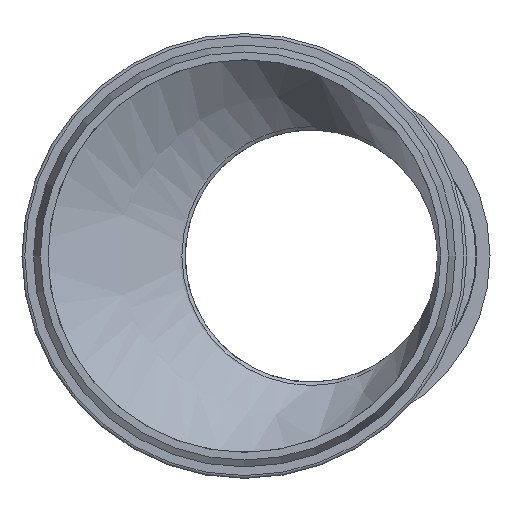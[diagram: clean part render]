
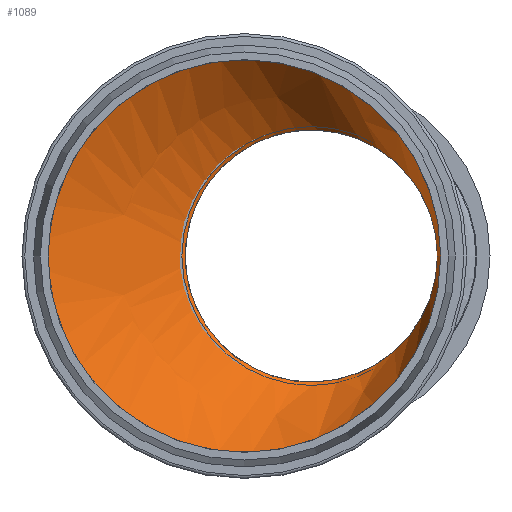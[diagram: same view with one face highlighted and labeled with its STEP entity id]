
A CAD part, front view. The second image highlights one B-rep face of the part: STEP entity #1089.
In plain terms, the highlighted free-form (B-spline) face has degree [1, 2] with [2, 9] control points.
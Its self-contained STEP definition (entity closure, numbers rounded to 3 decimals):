
#202=FACE_OUTER_BOUND($,#262,.T.);
#262=EDGE_LOOP($,(#729,#730,#731,#732,#733,#734));
#364=B_SPLINE_CURVE_WITH_KNOTS($,1,(#1611,#1612),.UNSPECIFIED.,.F.,.F.,
(2,2),(0.,0.88),.UNSPECIFIED.);
#414=CIRCLE($,#1162,22.475);
#415=CIRCLE($,#1163,22.475);
#416=CIRCLE($,#1164,35.);
#417=CIRCLE($,#1165,35.);
#473=VERTEX_POINT($,#1606);
#474=VERTEX_POINT($,#1607);
#475=VERTEX_POINT($,#1610);
#476=VERTEX_POINT($,#1613);
#584=EDGE_CURVE($,#473,#474,#414,.T.);
#585=EDGE_CURVE($,#474,#473,#415,.T.);
#586=EDGE_CURVE($,#474,#475,#364,.T.);
#587=EDGE_CURVE($,#475,#476,#416,.T.);
#588=EDGE_CURVE($,#476,#475,#417,.T.);
#729=ORIENTED_EDGE($,*,*,#584,.F.);
#730=ORIENTED_EDGE($,*,*,#585,.F.);
#731=ORIENTED_EDGE($,*,*,#586,.T.);
#732=ORIENTED_EDGE($,*,*,#587,.T.);
#733=ORIENTED_EDGE($,*,*,#588,.T.);
#734=ORIENTED_EDGE($,*,*,#586,.F.);
#1019=(
BOUNDED_SURFACE()
B_SPLINE_SURFACE(1,2,((#1588,#1589,#1590,#1591,#1592,#1593,#1594,#1595,
#1596),(#1597,#1598,#1599,#1600,#1601,#1602,#1603,#1604,#1605)),
 .UNSPECIFIED.,.F.,.T.,.F.)
B_SPLINE_SURFACE_WITH_KNOTS((2,2),(3,2,2,2,3),(-0.436,2.42),
(-3.142,-1.571,0.,1.571,3.142),
 .UNSPECIFIED.)
GEOMETRIC_REPRESENTATION_ITEM()
RATIONAL_B_SPLINE_SURFACE(((1.,0.707,1.,0.707,1.,
0.707,1.,0.707,1.),(1.,0.707,1.,0.707,
1.,0.707,1.,0.707,1.)))
REPRESENTATION_ITEM($)
SURFACE()
);
#1089=ADVANCED_FACE($,(#202),#1019,.T.);
#1162=AXIS2_PLACEMENT_3D($,#1608,#1293,#1294);
#1163=AXIS2_PLACEMENT_3D($,#1609,#1295,#1296);
#1164=AXIS2_PLACEMENT_3D($,#1614,#1297,#1298);
#1165=AXIS2_PLACEMENT_3D($,#1615,#1299,#1300);
#1293=DIRECTION('center_axis',(0.,-1.,0.));
#1294=DIRECTION('ref_axis',(1.,0.,0.));
#1295=DIRECTION('center_axis',(0.,-1.,0.));
#1296=DIRECTION('ref_axis',(1.,0.,0.));
#1297=DIRECTION('center_axis',(0.,-1.,0.));
#1298=DIRECTION('ref_axis',(1.,0.,0.));
#1299=DIRECTION('center_axis',(0.,-1.,0.));
#1300=DIRECTION('ref_axis',(1.,0.,0.));
#1588=CARTESIAN_POINT('Ctrl Pts',(24.052,83.007,15.035));
#1589=CARTESIAN_POINT('Ctrl Pts',(13.699,89.065,15.035));
#1590=CARTESIAN_POINT('Ctrl Pts',(13.699,89.065,0.));
#1591=CARTESIAN_POINT('Ctrl Pts',(13.699,89.065,-15.035));
#1592=CARTESIAN_POINT('Ctrl Pts',(24.052,83.007,-15.035));
#1593=CARTESIAN_POINT('Ctrl Pts',(34.405,76.95,-15.035));
#1594=CARTESIAN_POINT('Ctrl Pts',(34.405,76.95,0.));
#1595=CARTESIAN_POINT('Ctrl Pts',(34.405,76.95,15.035));
#1596=CARTESIAN_POINT('Ctrl Pts',(24.052,83.007,15.035));
#1597=CARTESIAN_POINT('Ctrl Pts',(0.856,43.36,52.595));
#1598=CARTESIAN_POINT('Ctrl Pts',(-35.361,64.55,52.595));
#1599=CARTESIAN_POINT('Ctrl Pts',(-35.361,64.55,0.));
#1600=CARTESIAN_POINT('Ctrl Pts',(-35.361,64.55,-52.595));
#1601=CARTESIAN_POINT('Ctrl Pts',(0.856,43.36,-52.595));
#1602=CARTESIAN_POINT('Ctrl Pts',(37.072,22.171,-52.595));
#1603=CARTESIAN_POINT('Ctrl Pts',(37.072,22.171,0.));
#1604=CARTESIAN_POINT('Ctrl Pts',(37.072,22.171,52.595));
#1605=CARTESIAN_POINT('Ctrl Pts',(0.856,43.36,52.595));
#1606=CARTESIAN_POINT('',(34.405,76.95,0.));
#1607=CARTESIAN_POINT('',(20.508,76.95,20.774));
#1608=CARTESIAN_POINT('Origin',(11.93,76.95,0.));
#1609=CARTESIAN_POINT('Origin',(11.93,76.95,0.));
#1610=CARTESIAN_POINT('',(13.358,64.73,32.35));
#1611=CARTESIAN_POINT('Ctrl Pts',(20.508,76.95,20.774));
#1612=CARTESIAN_POINT('Ctrl Pts',(13.358,64.73,32.35));
#1613=CARTESIAN_POINT('',(35.,64.73,0.));
#1614=CARTESIAN_POINT('Origin',(0.,64.73,0.));
#1615=CARTESIAN_POINT('Origin',(0.,64.73,0.));
